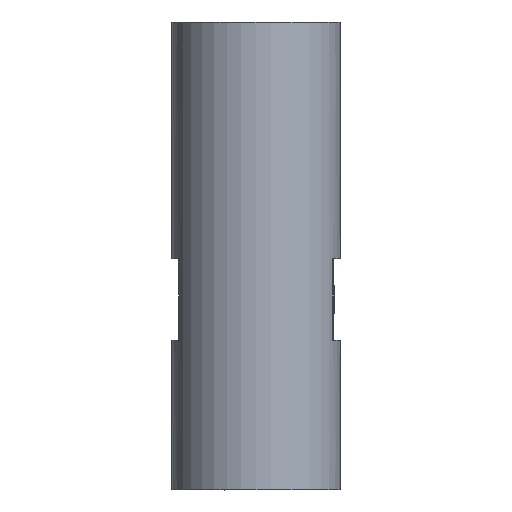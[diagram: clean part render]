
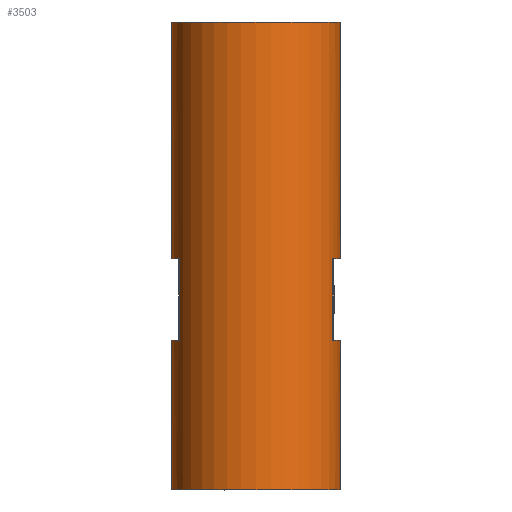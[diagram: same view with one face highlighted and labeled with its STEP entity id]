
A CAD part, front view. The second image highlights one B-rep face of the part: STEP entity #3503.
In plain terms, the highlighted cylindrical face has radius 31 mm (diameter 62 mm), a full revolution.
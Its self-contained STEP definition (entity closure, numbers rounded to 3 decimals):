
#2285=FACE_BOUND('',#5680,.T.);
#2286=FACE_BOUND('',#5681,.T.);
#2287=FACE_BOUND('',#5682,.T.);
#2288=FACE_BOUND('',#5683,.T.);
#2289=FACE_BOUND('',#5684,.T.);
#2430=CYLINDRICAL_SURFACE('',#18081,31.);
#2784=CIRCLE('',#18074,31.);
#2785=CIRCLE('',#18076,31.);
#2786=CIRCLE('',#18077,31.);
#2787=CIRCLE('',#18078,31.);
#2788=CIRCLE('',#18079,31.);
#2789=CIRCLE('',#18080,31.);
#3503=ADVANCED_FACE('',(#2285,#2286,#2287,#2288,#2289),#2430,.T.);
#5680=EDGE_LOOP('',(#10090));
#5681=EDGE_LOOP('',(#10091));
#5682=EDGE_LOOP('',(#10092,#10093,#10094,#10095));
#5683=EDGE_LOOP('',(#10096,#10097,#10098,#10099));
#5684=EDGE_LOOP('',(#10100,#10101,#10102,#10103));
#6504=B_SPLINE_CURVE_WITH_KNOTS('',3,(#35155,#35156,#35157,#35158,#35159,
#35160,#35161,#35162,#35163,#35164),.UNSPECIFIED.,.F.,.F.,(4,2,2,2,4),(0.,
0.25,0.5,0.75,1.),.UNSPECIFIED.);
#6552=B_SPLINE_CURVE_WITH_KNOTS('',3,(#37580,#37581,#37582,#37583,#37584,
#37585,#37586,#37587,#37588,#37589),.UNSPECIFIED.,.F.,.F.,(4,2,2,2,4),(0.,
0.25,0.5,0.75,1.),.UNSPECIFIED.);
#10090=ORIENTED_EDGE('',*,*,#14193,.T.);
#10091=ORIENTED_EDGE('',*,*,#14194,.T.);
#10092=ORIENTED_EDGE('',*,*,#14195,.F.);
#10093=ORIENTED_EDGE('',*,*,#14196,.T.);
#10094=ORIENTED_EDGE('',*,*,#14197,.F.);
#10095=ORIENTED_EDGE('',*,*,#14198,.T.);
#10096=ORIENTED_EDGE('',*,*,#14199,.T.);
#10097=ORIENTED_EDGE('',*,*,#14200,.F.);
#10098=ORIENTED_EDGE('',*,*,#14201,.T.);
#10099=ORIENTED_EDGE('',*,*,#14202,.F.);
#10100=ORIENTED_EDGE('',*,*,#14134,.F.);
#10101=ORIENTED_EDGE('',*,*,#14203,.F.);
#10102=ORIENTED_EDGE('',*,*,#14204,.F.);
#10103=ORIENTED_EDGE('',*,*,#14205,.F.);
#12096=VERTEX_POINT('',#35165);
#12097=VERTEX_POINT('',#35166);
#12138=VERTEX_POINT('',#37558);
#12139=VERTEX_POINT('',#37561);
#12140=VERTEX_POINT('',#37563);
#12141=VERTEX_POINT('',#37564);
#12142=VERTEX_POINT('',#37566);
#12143=VERTEX_POINT('',#37568);
#12144=VERTEX_POINT('',#37571);
#12145=VERTEX_POINT('',#37572);
#12146=VERTEX_POINT('',#37574);
#12147=VERTEX_POINT('',#37576);
#12148=VERTEX_POINT('',#37579);
#12149=VERTEX_POINT('',#37590);
#14134=EDGE_CURVE('',#12096,#12097,#6504,.T.);
#14193=EDGE_CURVE('',#12138,#12138,#2784,.T.);
#14194=EDGE_CURVE('',#12139,#12139,#2785,.T.);
#14195=EDGE_CURVE('',#12140,#12141,#15424,.T.);
#14196=EDGE_CURVE('',#12140,#12142,#2786,.T.);
#14197=EDGE_CURVE('',#12143,#12142,#15425,.T.);
#14198=EDGE_CURVE('',#12143,#12141,#2787,.T.);
#14199=EDGE_CURVE('',#12144,#12145,#2788,.T.);
#14200=EDGE_CURVE('',#12146,#12145,#15426,.T.);
#14201=EDGE_CURVE('',#12146,#12147,#2789,.T.);
#14202=EDGE_CURVE('',#12144,#12147,#15427,.T.);
#14203=EDGE_CURVE('',#12148,#12096,#15428,.T.);
#14204=EDGE_CURVE('',#12149,#12148,#6552,.T.);
#14205=EDGE_CURVE('',#12097,#12149,#15429,.T.);
#15424=LINE('',#37562,#16781);
#15425=LINE('',#37567,#16782);
#15426=LINE('',#37573,#16783);
#15427=LINE('',#37577,#16784);
#15428=LINE('',#37578,#16785);
#15429=LINE('',#37591,#16786);
#16781=VECTOR('',#20962,1.);
#16782=VECTOR('',#20965,1.);
#16783=VECTOR('',#20970,1.);
#16784=VECTOR('',#20973,1.);
#16785=VECTOR('',#20974,1.);
#16786=VECTOR('',#20975,1.);
#18074=AXIS2_PLACEMENT_3D('',#37557,#20956,#20957);
#18076=AXIS2_PLACEMENT_3D('',#37560,#20960,#20961);
#18077=AXIS2_PLACEMENT_3D('',#37565,#20963,#20964);
#18078=AXIS2_PLACEMENT_3D('',#37569,#20966,#20967);
#18079=AXIS2_PLACEMENT_3D('',#37570,#20968,#20969);
#18080=AXIS2_PLACEMENT_3D('',#37575,#20971,#20972);
#18081=AXIS2_PLACEMENT_3D('',#37592,#20976,#20977);
#20956=DIRECTION('',(0.,0.,1.));
#20957=DIRECTION('',(1.,0.,0.));
#20960=DIRECTION('',(0.,0.,-1.));
#20961=DIRECTION('',(1.,0.,0.));
#20962=DIRECTION('',(0.,0.,-1.));
#20963=DIRECTION('',(0.,0.,1.));
#20964=DIRECTION('',(-1.,0.,0.));
#20965=DIRECTION('',(0.,0.,1.));
#20966=DIRECTION('',(0.,0.,-1.));
#20967=DIRECTION('',(-0.915,-0.403,0.));
#20968=DIRECTION('',(0.,0.,1.));
#20969=DIRECTION('',(0.915,-0.403,0.));
#20970=DIRECTION('',(0.,0.,1.));
#20971=DIRECTION('',(0.,0.,-1.));
#20972=DIRECTION('',(1.,0.,0.));
#20973=DIRECTION('',(0.,0.,-1.));
#20974=DIRECTION('',(0.,0.,-1.));
#20975=DIRECTION('',(0.,0.,1.));
#20976=DIRECTION('',(0.,0.,-1.));
#20977=DIRECTION('',(-1.,0.,0.));
#35155=CARTESIAN_POINT('',(13.289,15.5,136.072));
#35156=CARTESIAN_POINT('',(12.023,16.101,133.642));
#35157=CARTESIAN_POINT('',(10.141,16.885,131.637));
#35158=CARTESIAN_POINT('',(5.548,18.089,128.811));
#35159=CARTESIAN_POINT('',(2.789,18.498,128.004));
#35160=CARTESIAN_POINT('',(-2.78,18.502,127.996));
#35161=CARTESIAN_POINT('',(-5.517,18.103,128.78));
#35162=CARTESIAN_POINT('',(-10.179,16.886,131.634));
#35163=CARTESIAN_POINT('',(-12.054,16.101,133.642));
#35164=CARTESIAN_POINT('',(-13.32,15.5,136.072));
#35165=CARTESIAN_POINT('',(13.289,15.5,136.072));
#35166=CARTESIAN_POINT('',(-13.32,15.5,136.072));
#37557=CARTESIAN_POINT('',(-0.016,-12.5,73.));
#37558=CARTESIAN_POINT('',(30.984,-12.5,73.));
#37560=CARTESIAN_POINT('',(-0.016,-12.5,245.));
#37561=CARTESIAN_POINT('',(30.984,-12.5,245.));
#37562=CARTESIAN_POINT('',(-28.384,0.,158.));
#37563=CARTESIAN_POINT('',(-28.384,0.,158.));
#37564=CARTESIAN_POINT('',(-28.384,0.,128.));
#37565=CARTESIAN_POINT('',(-0.016,-12.5,158.));
#37566=CARTESIAN_POINT('',(-28.384,-25.,158.));
#37567=CARTESIAN_POINT('',(-28.384,-25.,128.));
#37568=CARTESIAN_POINT('',(-28.384,-25.,128.));
#37569=CARTESIAN_POINT('',(-0.016,-12.5,128.));
#37570=CARTESIAN_POINT('',(-0.016,-12.5,158.));
#37571=CARTESIAN_POINT('',(28.352,-25.,158.));
#37572=CARTESIAN_POINT('',(28.352,0.,158.));
#37573=CARTESIAN_POINT('',(28.352,0.,128.));
#37574=CARTESIAN_POINT('',(28.352,0.,128.));
#37575=CARTESIAN_POINT('',(-0.016,-12.5,128.));
#37576=CARTESIAN_POINT('',(28.352,-25.,128.));
#37577=CARTESIAN_POINT('',(28.352,-25.,158.));
#37578=CARTESIAN_POINT('',(13.289,15.5,149.928));
#37579=CARTESIAN_POINT('',(13.289,15.5,149.928));
#37580=CARTESIAN_POINT('',(-13.32,15.5,149.928));
#37581=CARTESIAN_POINT('',(-12.055,16.101,152.358));
#37582=CARTESIAN_POINT('',(-10.172,16.885,154.363));
#37583=CARTESIAN_POINT('',(-5.579,18.089,157.189));
#37584=CARTESIAN_POINT('',(-2.82,18.498,157.996));
#37585=CARTESIAN_POINT('',(2.749,18.502,158.004));
#37586=CARTESIAN_POINT('',(5.485,18.103,157.22));
#37587=CARTESIAN_POINT('',(10.148,16.886,154.366));
#37588=CARTESIAN_POINT('',(12.023,16.101,152.358));
#37589=CARTESIAN_POINT('',(13.289,15.5,149.928));
#37590=CARTESIAN_POINT('',(-13.32,15.5,149.928));
#37591=CARTESIAN_POINT('',(-13.32,15.5,136.072));
#37592=CARTESIAN_POINT('',(-0.016,-12.5,253.6));
